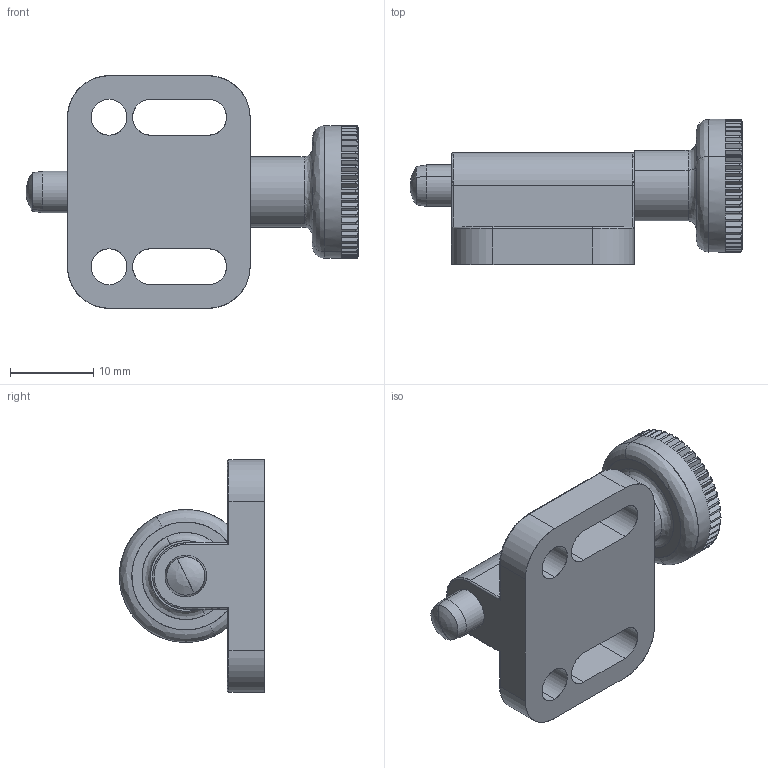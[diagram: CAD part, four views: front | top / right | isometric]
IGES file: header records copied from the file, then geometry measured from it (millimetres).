
Start section: SolidWorks IGES file using analytic representation for surfaces
Global section: file name: C:\HEMSIDA\cad\SLDPRT_2007\gn417\\gn417b_5.igs; native system: SolidWorks 2007; preprocessor: SolidWorks 2007; author: Administrator; date: 070919.153001; units: millimetre
Bounding box: 40 x 17.5 x 28 mm (x, y, z)
Surface area: 3752.1 mm2 (no closed solid volume)
Topology: 0 solids, 0 shells, 270 faces, 2904 edges, 2901 vertices
Faces by surface type: bspline 231, revolution 39
